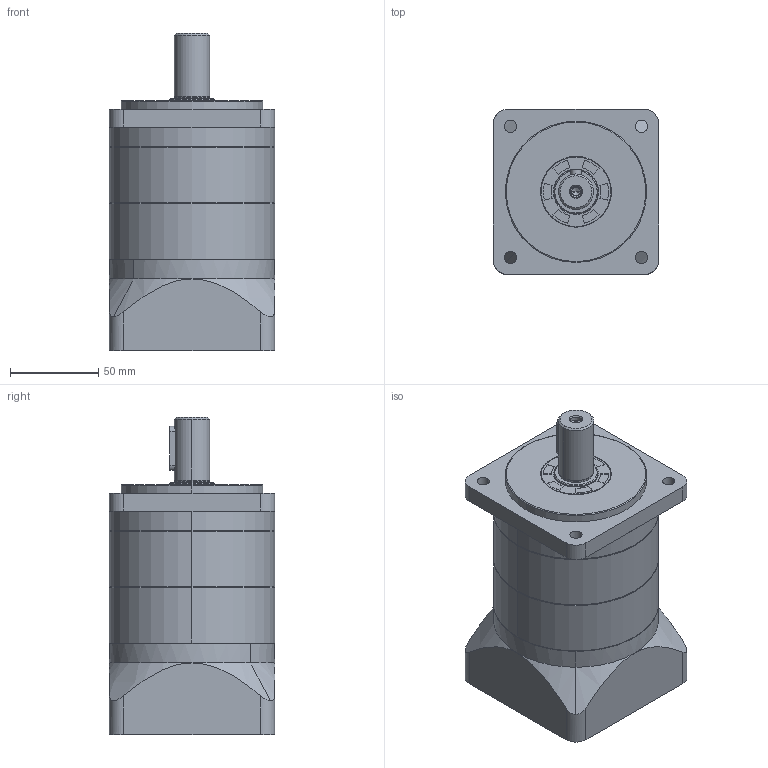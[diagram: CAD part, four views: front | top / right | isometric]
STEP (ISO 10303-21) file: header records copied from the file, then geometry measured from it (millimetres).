
FILE_DESCRIPTION (( 'STEP AP203' ), '1' );
FILE_NAME ('SB93-L2(12.7-73-98.7-M5).STEP', '2022-03-11T16:42:25', ( '' ), ( '' ), 'SwSTEP 2.0', 'SolidWorks 2016', '' );
FILE_SCHEMA (( 'CONFIG_CONTROL_DESIGN' ));
Length unit declared in the file: millimetre
Products named in the file (9): SN93-(20x37-6x25); SN90-25x40x5; SB93-L2(12.7-73-98.7-M5); SN93-(73-98.7-M5); SB93-(80x5-105-7); SN90-48x27x15-M6; SN90-(19); SN93; 90-(o19-12.7x26)
Assembly tree (9 placements, depth 2):
  SB93-L2(12.7-73-98.7-M5)
    SB93-(80x5-105-7)
    SN90-25x40x5
    SN93-(20x37-6x25)
    SN93  x2
    SN93-(73-98.7-M5)
    SN90-(19)
    SN90-48x27x15-M6
    90-(o19-12.7x26)
Bounding box: 93.5 x 93.5 x 179.5 mm (x, y, z)
Volume: 971711.5 mm3; surface area: 159702.2 mm2
Topology: 11 solids, 11 shells, 445 faces, 1126 edges, 714 vertices
Faces by surface type: cylinder 226, plane 122, cone 59, bspline 32, torus 6
Entity records: 29953 total; most frequent: CARTESIAN_POINT 19147, ORIENTED_EDGE 2140, DIRECTION 1991, EDGE_CURVE 1070, AXIS2_PLACEMENT_3D 775, VERTEX_POINT 690, EDGE_LOOP 494, LINE 441
